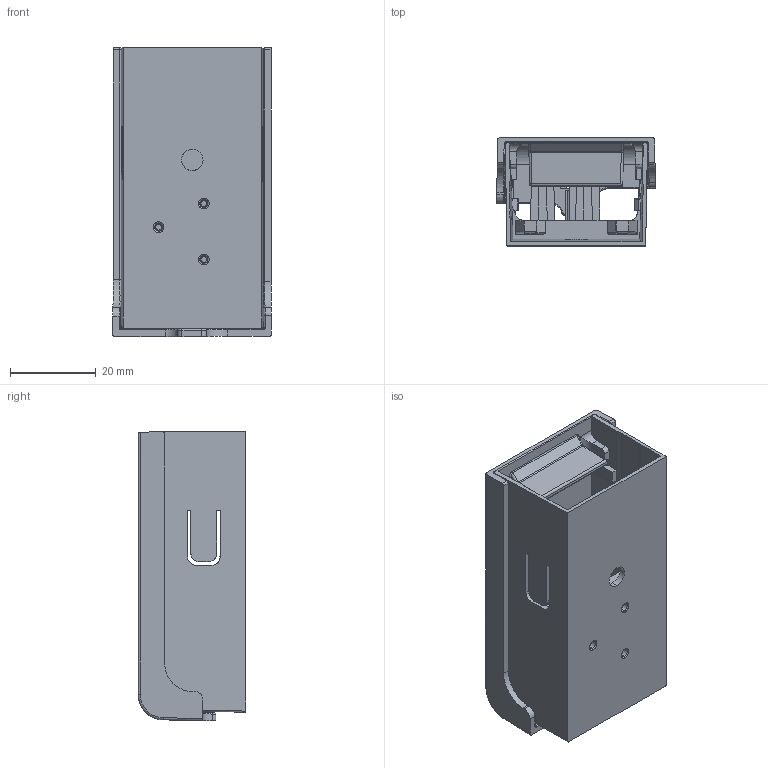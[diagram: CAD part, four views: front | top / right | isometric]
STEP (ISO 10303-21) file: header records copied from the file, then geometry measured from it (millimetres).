
FILE_DESCRIPTION (( 'STEP AP203' ), '1' );
FILE_NAME ('LL1X2130-SR.STEP', '2017-05-17T07:21:07', ( '' ), ( '' ), 'SwSTEP 2.0', 'SolidWorks 2014', '' );
FILE_SCHEMA (( 'CONFIG_CONTROL_DESIGN' ));
Length unit declared in the file: millimetre
Products named in the file (4): m3x8_99461A177; LL1X2130-SR; p0007_014__TM-mod; P0007_014b
Assembly tree (3 placements, depth 2):
  LL1X2130-SR
    p0007_014__TM-mod
    P0007_014b
    m3x8_99461A177
Bounding box: 36.97 x 25.1 x 67.4 mm (x, y, z)
Volume: 14102.9 mm3; surface area: 21391.6 mm2
Topology: 3 solids, 3 shells, 1311 faces, 3561 edges, 2267 vertices
Faces by surface type: plane 848, cylinder 315, bspline 57, torus 46, cone 35, sphere 10
Entity records: 43708 total; most frequent: CARTESIAN_POINT 11771, ORIENTED_EDGE 7102, DIRECTION 5866, EDGE_CURVE 3551, VECTOR 2712, LINE 2712, VERTEX_POINT 2267, AXIS2_PLACEMENT_3D 1577
